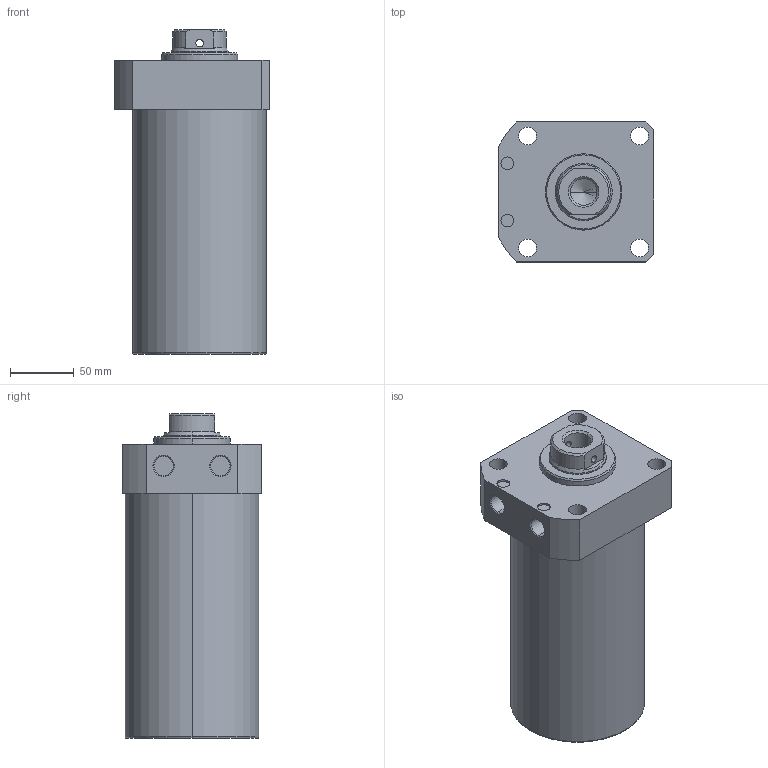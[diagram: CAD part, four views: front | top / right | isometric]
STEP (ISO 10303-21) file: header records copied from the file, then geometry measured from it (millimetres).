
FILE_DESCRIPTION (( 'STEP AP203' ), '1' );
FILE_NAME ('CLLR-105CB-145.STEP', '2019-12-18T07:37:10', ( '' ), ( '' ), 'SwSTEP 2.0', 'SolidWorks 2015', '' );
FILE_SCHEMA (( 'CONFIG_CONTROL_DESIGN' ));
Length unit declared in the file: millimetre
Products named in the file (1): CLLR-105CB-145
Bounding box: 122 x 110 x 255 mm (x, y, z)
Volume: 2159259.1 mm3; surface area: 122097 mm2
Topology: 1 solids, 1 shells, 69 faces, 165 edges, 104 vertices
Faces by surface type: cylinder 33, plane 19, cone 15, torus 2
Entity records: 2227 total; most frequent: CARTESIAN_POINT 481, DIRECTION 372, ORIENTED_EDGE 326, EDGE_CURVE 163, AXIS2_PLACEMENT_3D 151, VERTEX_POINT 104, EDGE_LOOP 89, CIRCLE 81
